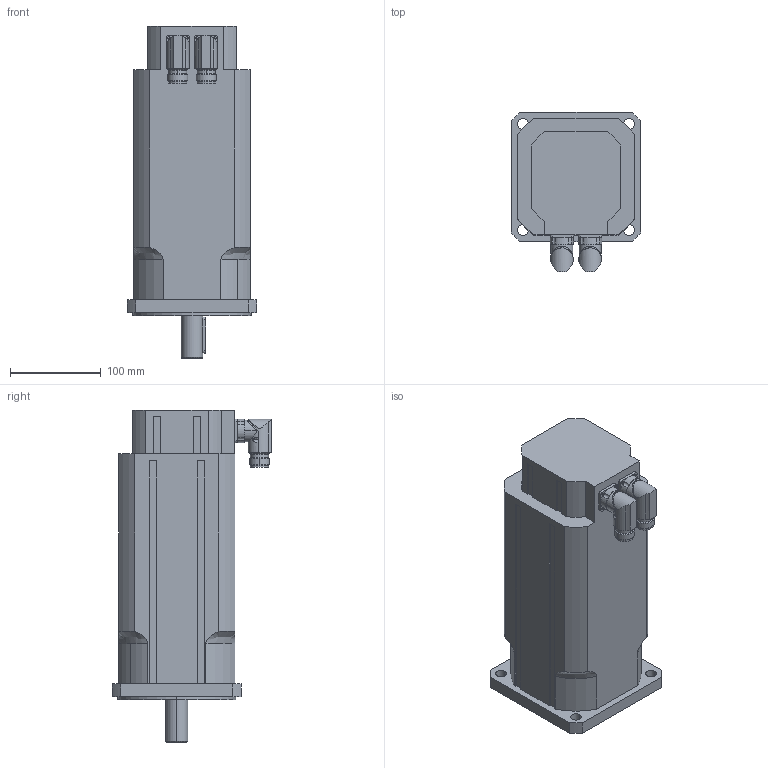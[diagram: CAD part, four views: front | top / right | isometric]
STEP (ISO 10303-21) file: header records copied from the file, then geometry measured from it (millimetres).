
FILE_DESCRIPTION(('STEP AP203'),'2;1');
FILE_NAME('MT5-1700_BX.stp','2006-08-28T20:50:21',(''),(''),'2005.2.102','THINKDESIGN','');
FILE_SCHEMA(('CONFIG_CONTROL_DESIGN'));
Length unit declared in the file: millimetre
Bounding box: 142 x 175.5 x 365 mm (x, y, z)
Volume: 4782420.6 mm3; surface area: 216969.4 mm2
Topology: 3 solids, 3 shells, 255 faces, 679 edges, 439 vertices
Faces by surface type: cylinder 110, plane 107, bspline 38
Full cylindrical faces by diameter (mm): 20 x2
Entity records: 9316 total; most frequent: CARTESIAN_POINT 2863, ORIENTED_EDGE 1354, DIRECTION 1327, EDGE_CURVE 677, AXIS2_PLACEMENT_3D 493, VERTEX_POINT 439, VECTOR 341, LINE 341
